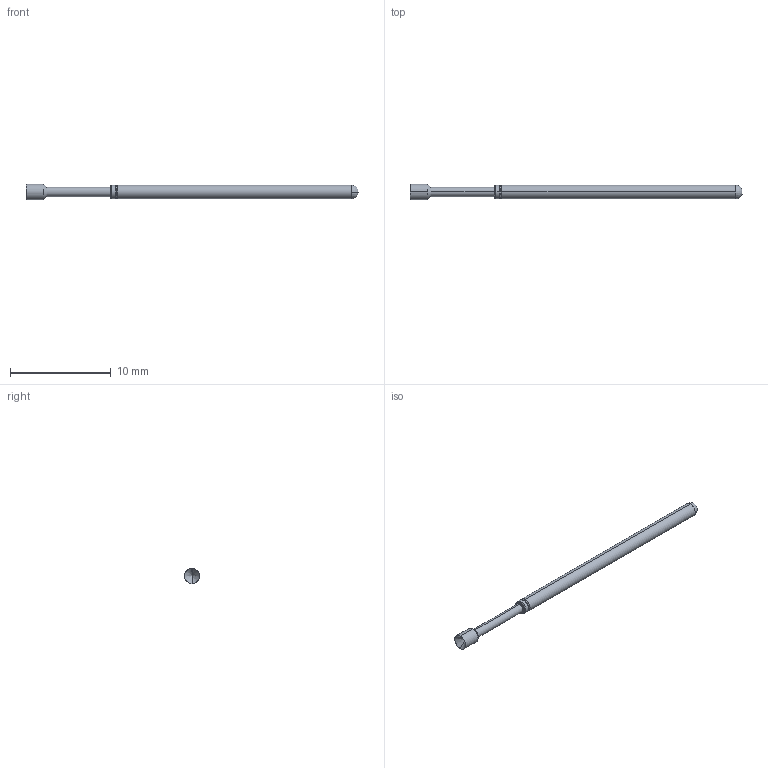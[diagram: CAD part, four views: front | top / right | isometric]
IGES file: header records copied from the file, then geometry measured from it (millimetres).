
Start section: SolidWorks IGES file using analytic representation for surfaces
Global section: file name: Z:\probe solid model mockups\Solidworks models\POGO-25 IGS files\POGO-25A.IGS; native system: SolidWorks 2006 by SolidWorks Corporation; preprocessor: SolidWorks 2006 by SolidWorks Corporation; author: tsakatani; date: 071214.084026; units: inch
Bounding box: 33.02 x 1.52 x 1.52 mm (x, y, z)
Surface area: 137.9 mm2 (no closed solid volume)
Topology: 0 solids, 0 shells, 24 faces, 140 edges, 138 vertices
Faces by surface type: revolution 18, bspline 6
